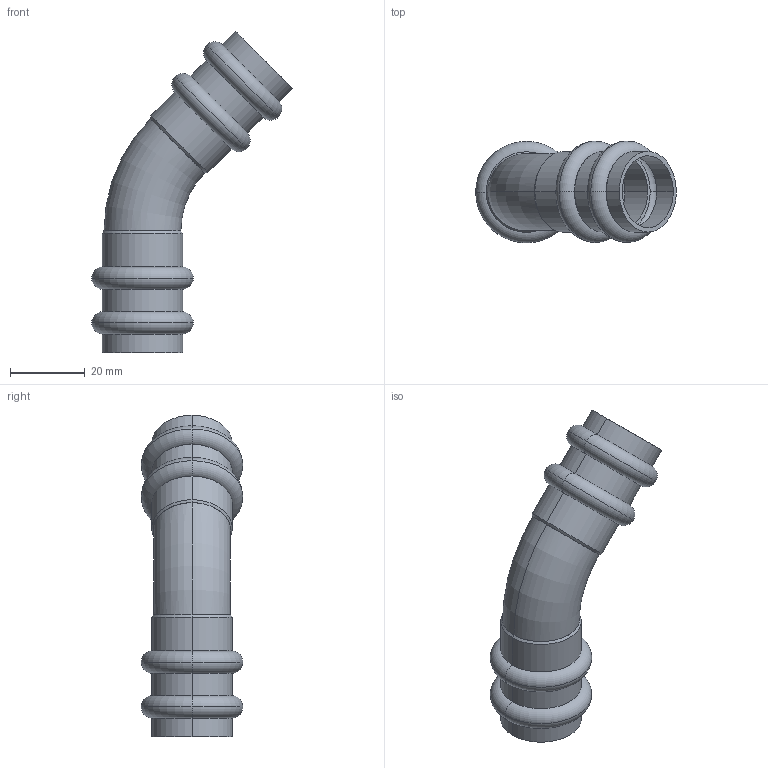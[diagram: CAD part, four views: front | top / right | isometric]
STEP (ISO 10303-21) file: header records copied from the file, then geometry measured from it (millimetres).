
FILE_DESCRIPTION(('starvars output'),'1');
FILE_NAME('cv20240422105112000011659.stp','10:51:12 2024/04/22',('Thomas Industrial Network Germany GmbH'),(' '),'Spatial InterOp 3D',' ',' ');
FILE_SCHEMA(('AUTOMOTIVE_DESIGN { 1 0 10303 214 3 1 1 }'));
Length unit declared in the file: millimetre
Products named in the file (1): 1
Bounding box: 53.74 x 27.2 x 86.11 mm (x, y, z)
Volume: 9432.7 mm3; surface area: 13721.9 mm2
Topology: 1 solids, 1 shells, 74 faces, 148 edges, 92 vertices
Faces by surface type: torus 28, cylinder 20, plane 18, cone 8
Entity records: 2856 total; most frequent: CARTESIAN_POINT 591, DIRECTION 410, ORIENTED_EDGE 296, AXIS2_PLACEMENT_3D 191, EDGE_CURVE 148, CIRCLE 116, EDGE_LOOP 92, VERTEX_POINT 92
